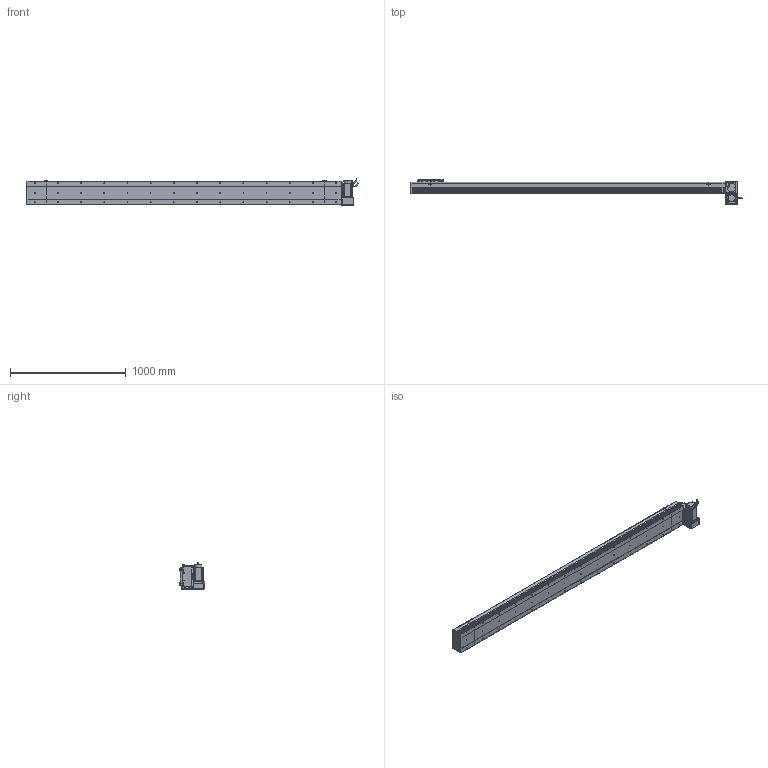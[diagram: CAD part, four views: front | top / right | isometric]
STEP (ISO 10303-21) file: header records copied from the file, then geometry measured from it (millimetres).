
FILE_DESCRIPTION (( 'STEP AP214' ), '1' );
FILE_NAME ('D20 CBH RU S2400.STEP', '2010-06-30T10:10:40', ( 'Conseil Régional Haute-Normandie' ), ( 'Conseil Régional Haute-Normandie' ), 'SwSTEP 2.0', 'SolidWorks 2010', '' );
FILE_SCHEMA (( 'AUTOMOTIVE_DESIGN' ));
Length unit declared in the file: millimetre
Products named in the file (31): D20 CBH RU S2400; Plaque De Serrage D20_Default; Plaque de Bout Tail D20_Default; Couvercle_Default; Corp Tail D20_Default; vis M5 L15_Default; Tail D20_Default; Glissiere_Default; Chariot D20_Default; Support moteur RU_Default; Plaque de Bout Head D20 RU_Default; Head RU_Default; Cache Support Moteur RU_Default; Plaque De Serrage D20 RU_Default; Couvercle RU_Default; Corp Tail D20 RU_Default; Moteur motionking 90BLDC125A-640; Rondelle Cache D20 RU_Default; Conecteur2_Default; codeur 90BLDC125-640; corps 90BLDC125A-640; avant 90BLDC125A-640; ecrou_Default; vis M5 L30_Default; Conecteur_Default; Corp S2400_Default; Corp D20 S2400_Default; vis M5 L47_Default; Support Chariot D20_Default; Couvercle S2400_Default
Assembly tree (66 placements, depth 4):
  D20 CBH RU S2400
    Corp D20 S2400_Default
      Couvercle S2400_Default
      Corp S2400_Default
    Head RU_Default
      Rondelle Cache D20 RU_Default  x3
      ecrou_Default  x4
      vis M5 L15_Default  x12
      Couvercle RU_Default
      vis M5 L47_Default  x4
      Moteur motionking 90BLDC125A-640
        Conecteur_Default
        codeur 90BLDC125-640
        corps 90BLDC125A-640
        avant 90BLDC125A-640
        Conecteur2_Default
      Plaque de Bout Head D20 RU_Default
      vis M5 L30_Default  x4
      Cache Support Moteur RU_Default
      Plaque De Serrage D20 RU_Default
      Corp Tail D20 RU_Default
      Support moteur RU_Default
    Tail D20_Default
      vis M5 L15_Default  x6
      Plaque De Serrage D20_Default
      Corp Tail D20_Default
      Plaque de Bout Tail D20_Default
      Couvercle_Default
    Chariot D20_Default
      vis M5 L15_Default  x8
      Glissiere_Default
      Chariot D20_Default
      Support Chariot D20_Default
Bounding box: 2864.45 x 209 x 229.7 mm (x, y, z)
Volume: 19450872.1 mm3; surface area: 3772261.8 mm2
Topology: 103 solids, 103 shells, 3787 faces, 9434 edges, 6130 vertices
Faces by surface type: plane 2102, bspline 806, cylinder 716, torus 91, cone 68, sphere 4
Entity records: 159886 total; most frequent: CARTESIAN_POINT 82389, ORIENTED_EDGE 15336, DIRECTION 11706, EDGE_CURVE 7668, VERTEX_POINT 5074, VECTOR 4948, LINE 4948, AXIS2_PLACEMENT_3D 3379
